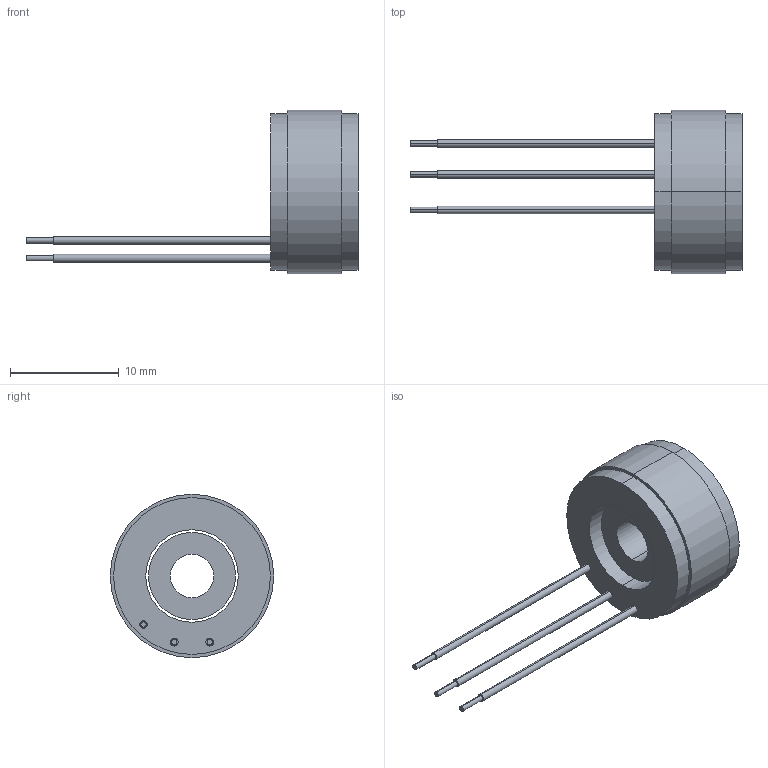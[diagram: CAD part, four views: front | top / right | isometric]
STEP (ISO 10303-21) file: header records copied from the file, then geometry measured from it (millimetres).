
FILE_DESCRIPTION (( 'STEP AP214' ), '1' );
FILE_NAME ('无框力矩电机 U01508000000 3D模型.STEP', '2026-10-15T08:34:21', ( '' ), ( '' ), 'SwSTEP 2.0', 'SolidWorks 2023', '' );
FILE_SCHEMA (( 'AUTOMOTIVE_DESIGN' ));
Length unit declared in the file: millimetre
Products named in the file (1): 无框力矩电机 U01508000000 3D模型
Bounding box: 30.5 x 15 x 15 mm (x, y, z)
Volume: 1146.3 mm3; surface area: 1247.6 mm2
Topology: 2 solids, 2 shells, 36 faces, 72 edges, 48 vertices
Faces by surface type: cylinder 24, plane 12
Entity records: 1004 total; most frequent: DIRECTION 194, CARTESIAN_POINT 157, ORIENTED_EDGE 144, AXIS2_PLACEMENT_3D 85, EDGE_CURVE 72, CIRCLE 48, EDGE_LOOP 48, VERTEX_POINT 48
